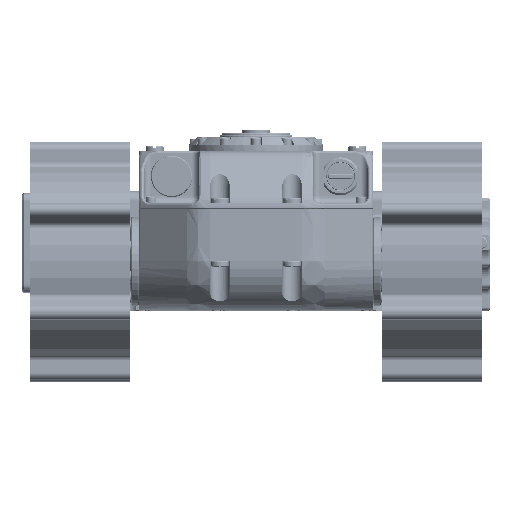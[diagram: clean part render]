
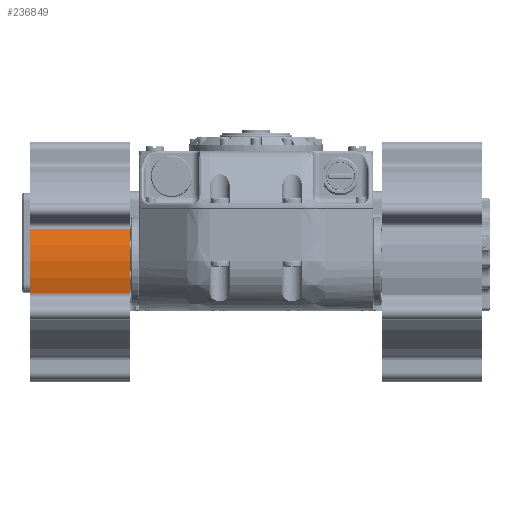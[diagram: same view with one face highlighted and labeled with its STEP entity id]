
A CAD part, top view. The second image highlights one B-rep face of the part: STEP entity #236849.
In plain terms, the highlighted cylindrical face has radius 54.305 mm (diameter 108.61 mm), a partial arc.
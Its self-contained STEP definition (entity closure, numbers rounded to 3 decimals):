
#3163 = VECTOR ( 'NONE', #20970, 1000. ) ;
#5943 = DIRECTION ( 'NONE',  ( -1., 0., 0. ) ) ;
#9767 = CARTESIAN_POINT ( 'NONE',  ( -125., -29., 185.5 ) ) ;
#10181 = CIRCLE ( 'NONE', #221685, 54.305 ) ;
#20970 = DIRECTION ( 'NONE',  ( -1., 0., 0. ) ) ;
#22894 = CARTESIAN_POINT ( 'NONE',  ( -125., -11.151, 236.788 ) ) ;
#63681 = DIRECTION ( 'NONE',  ( -1., 0., 0. ) ) ;
#70645 = CARTESIAN_POINT ( 'NONE',  ( -125., -46.849, 236.788 ) ) ;
#81450 = CARTESIAN_POINT ( 'NONE',  ( -125., -11.151, 236.788 ) ) ;
#83765 = EDGE_CURVE ( 'NONE', #104317, #274091, #10181, .T. ) ;
#90492 = DIRECTION ( 'NONE',  ( 1., 0., 0. ) ) ;
#96086 = ORIENTED_EDGE ( 'NONE', *, *, #157597, .F. ) ;
#96985 = VECTOR ( 'NONE', #90492, 1000. ) ;
#97750 = VERTEX_POINT ( 'NONE', #81450 ) ;
#99572 = CARTESIAN_POINT ( 'NONE',  ( -70., -11.151, 236.788 ) ) ;
#101155 = DIRECTION ( 'NONE',  ( 1., 0., 0. ) ) ;
#104317 = VERTEX_POINT ( 'NONE', #233782 ) ;
#110037 = AXIS2_PLACEMENT_3D ( 'NONE', #9767, #101155, #235703 ) ;
#115246 = EDGE_LOOP ( 'NONE', ( #96086, #263504, #264994, #224629 ) ) ;
#129649 = DIRECTION ( 'NONE',  ( 0., 0., 1. ) ) ;
#157597 = EDGE_CURVE ( 'NONE', #166075, #97750, #215916, .T. ) ;
#158394 = CARTESIAN_POINT ( 'NONE',  ( -125., -46.849, 236.788 ) ) ;
#166075 = VERTEX_POINT ( 'NONE', #158394 ) ;
#184094 = CYLINDRICAL_SURFACE ( 'NONE', #110037, 54.305 ) ;
#193052 = EDGE_CURVE ( 'NONE', #166075, #104317, #195252, .T. ) ;
#195252 = LINE ( 'NONE', #70645, #96985 ) ;
#198259 = CARTESIAN_POINT ( 'NONE',  ( -125., -29., 185.5 ) ) ;
#215916 = CIRCLE ( 'NONE', #261572, 54.305 ) ;
#220459 = EDGE_CURVE ( 'NONE', #274091, #97750, #270387, .T. ) ;
#221685 = AXIS2_PLACEMENT_3D ( 'NONE', #275051, #5943, #231858 ) ;
#224629 = ORIENTED_EDGE ( 'NONE', *, *, #220459, .T. ) ;
#231858 = DIRECTION ( 'NONE',  ( 0., 0., 1. ) ) ;
#233782 = CARTESIAN_POINT ( 'NONE',  ( -70., -46.849, 236.788 ) ) ;
#235703 = DIRECTION ( 'NONE',  ( 0., 0., -1. ) ) ;
#236849 = ADVANCED_FACE ( 'NONE', ( #275403 ), #184094, .T. ) ;
#261572 = AXIS2_PLACEMENT_3D ( 'NONE', #198259, #63681, #129649 ) ;
#263504 = ORIENTED_EDGE ( 'NONE', *, *, #193052, .T. ) ;
#264994 = ORIENTED_EDGE ( 'NONE', *, *, #83765, .T. ) ;
#270387 = LINE ( 'NONE', #22894, #3163 ) ;
#274091 = VERTEX_POINT ( 'NONE', #99572 ) ;
#275051 = CARTESIAN_POINT ( 'NONE',  ( -70., -29., 185.5 ) ) ;
#275403 = FACE_OUTER_BOUND ( 'NONE', #115246, .T. ) ;
